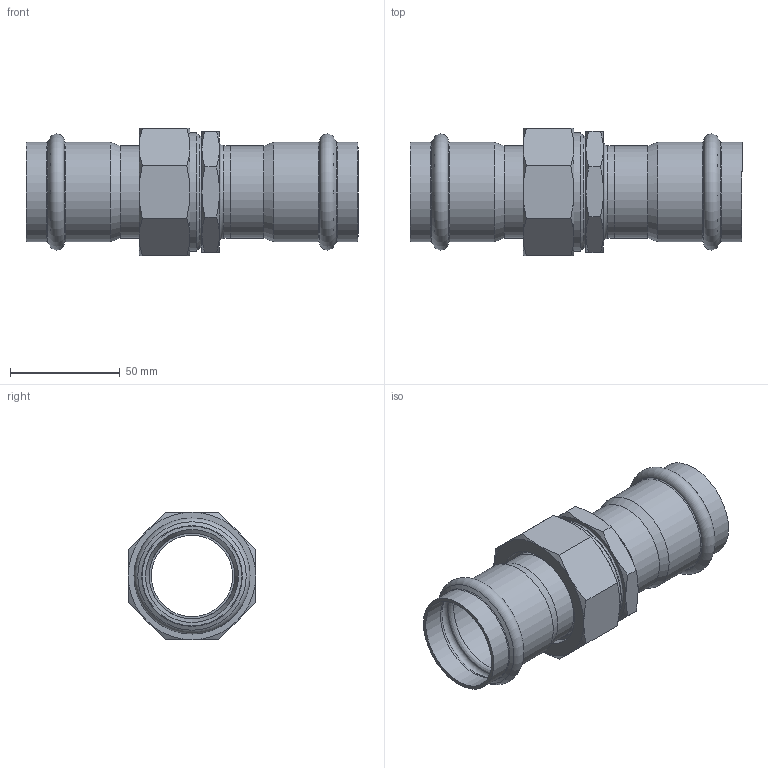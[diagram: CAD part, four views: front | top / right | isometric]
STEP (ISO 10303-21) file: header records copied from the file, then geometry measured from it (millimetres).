
FILE_DESCRIPTION((''),'2;1');
FILE_NAME('G:\Nirosan-Schmiedefeld\Technics\CAD\Bauteile VA\042\6933042(2).stp','2011-05-24T11:26:43',('herberg'),(''),'Autodesk Inventor 2009','Autodesk Inventor 2009','');
FILE_SCHEMA(('AUTOMOTIVE_DESIGN { 1 0 10303 214 1 1 1 1 }'));
Length unit declared in the file: millimetre
Products named in the file (9): 6933042(2); 69359m42134(2); HM_6924342(2); R42134(1); FD_5037_EPDM(0); AM42134(3); 69359AG42134(1); 69243G42HM(1); 359AG42134(2)
Assembly tree (8 placements, depth 3):
  6933042(2)
    69359m42134(2)
      HM_6924342(2)
      R42134(1)
      FD_5037_EPDM(0)
      AM42134(3)
    69359AG42134(1)
      69243G42HM(1)
      359AG42134(2)
Bounding box: 151 x 58 x 58 mm (x, y, z)
Volume: 73274.3 mm3; surface area: 60835.7 mm2
Topology: 6 solids, 6 shells, 114 faces, 229 edges, 131 vertices
Faces by surface type: cone 44, plane 31, cylinder 21, bspline 12, torus 6
Full cylindrical faces by diameter (mm): 37 x1, 39 x4, 42 x4, 42.3 x4, 43 x1, 45.3 x4, 49 x1, 50 x1, 53.746 x1
Entity records: 3282 total; most frequent: CARTESIAN_POINT 1032, DIRECTION 446, ORIENTED_EDGE 352, AXIS2_PLACEMENT_3D 215, EDGE_LOOP 180, EDGE_CURVE 176, VERTEX_POINT 128, FACE_OUTER_BOUND 114
